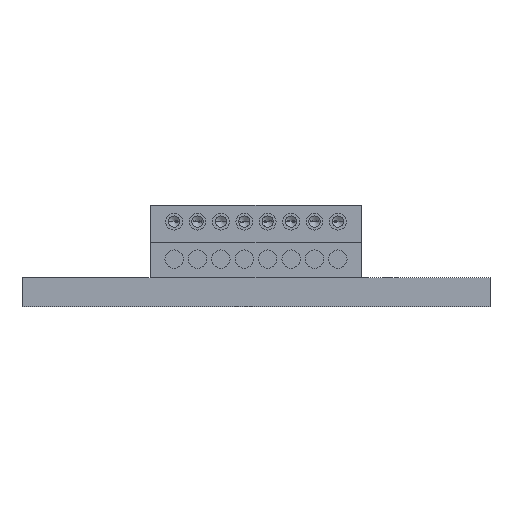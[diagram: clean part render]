
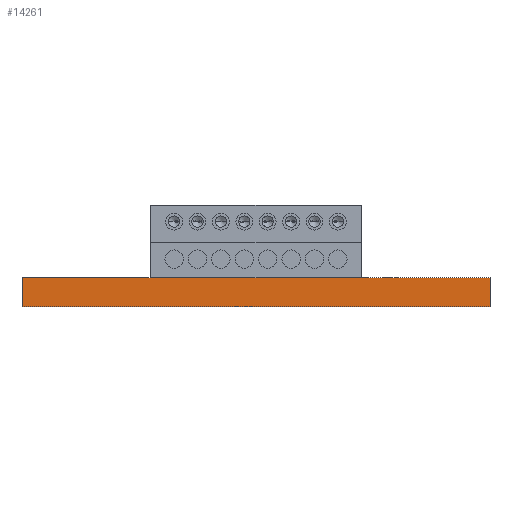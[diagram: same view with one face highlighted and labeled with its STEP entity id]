
A CAD part, front view. The second image highlights one B-rep face of the part: STEP entity #14261.
In plain terms, the highlighted planar face has unit normal (0, -1, 0).
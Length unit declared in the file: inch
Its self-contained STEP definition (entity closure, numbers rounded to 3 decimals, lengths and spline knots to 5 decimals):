
#496 = DIRECTION ( 'NONE',  ( 0., 0., -1. ) ) ;
#797 = VERTEX_POINT ( 'NONE', #3103 ) ;
#1990 = CARTESIAN_POINT ( 'NONE',  ( 0., 0., 0. ) ) ;
#2180 = EDGE_CURVE ( 'NONE', #797, #12998, #12395, .T. ) ;
#2408 = CARTESIAN_POINT ( 'NONE',  ( 0.5, 0., 0.031 ) ) ;
#3103 = CARTESIAN_POINT ( 'NONE',  ( 0., 0., 0.031 ) ) ;
#3537 = ORIENTED_EDGE ( 'NONE', *, *, #13372, .F. ) ;
#3547 = CARTESIAN_POINT ( 'NONE',  ( 0., 0., 0.031 ) ) ;
#3929 = DIRECTION ( 'NONE',  ( 0., 0., 1. ) ) ;
#4081 = LINE ( 'NONE', #11652, #7010 ) ;
#4999 = ORIENTED_EDGE ( 'NONE', *, *, #7317, .T. ) ;
#5192 = VERTEX_POINT ( 'NONE', #6979 ) ;
#5541 = CARTESIAN_POINT ( 'NONE',  ( 0.5, 0., 0.031 ) ) ;
#5646 = EDGE_LOOP ( 'NONE', ( #4999, #9469, #3537, #13345 ) ) ;
#6511 = AXIS2_PLACEMENT_3D ( 'NONE', #8515, #9438, #3929 ) ;
#6979 = CARTESIAN_POINT ( 'NONE',  ( 0.5, 0., 0. ) ) ;
#7010 = VECTOR ( 'NONE', #14054, 39.37008 ) ;
#7136 = LINE ( 'NONE', #2408, #13376 ) ;
#7317 = EDGE_CURVE ( 'NONE', #12998, #5192, #7830, .T. ) ;
#7830 = LINE ( 'NONE', #12202, #8031 ) ;
#8031 = VECTOR ( 'NONE', #8789, 39.37008 ) ;
#8515 = CARTESIAN_POINT ( 'NONE',  ( 0.5, 0., 0.031 ) ) ;
#8552 = VECTOR ( 'NONE', #496, 39.37008 ) ;
#8789 = DIRECTION ( 'NONE',  ( 1., 0., 0. ) ) ;
#9438 = DIRECTION ( 'NONE',  ( 0., 1., 0. ) ) ;
#9469 = ORIENTED_EDGE ( 'NONE', *, *, #10666, .F. ) ;
#9508 = PLANE ( 'NONE',  #6511 ) ;
#10666 = EDGE_CURVE ( 'NONE', #11671, #5192, #4081, .T. ) ;
#10797 = FACE_OUTER_BOUND ( 'NONE', #5646, .T. ) ;
#11652 = CARTESIAN_POINT ( 'NONE',  ( 0.5, 0., 0.031 ) ) ;
#11671 = VERTEX_POINT ( 'NONE', #5541 ) ;
#12202 = CARTESIAN_POINT ( 'NONE',  ( 0.5, 0., 0. ) ) ;
#12395 = LINE ( 'NONE', #3547, #8552 ) ;
#12511 = DIRECTION ( 'NONE',  ( 1., 0., 0. ) ) ;
#12998 = VERTEX_POINT ( 'NONE', #1990 ) ;
#13345 = ORIENTED_EDGE ( 'NONE', *, *, #2180, .T. ) ;
#13372 = EDGE_CURVE ( 'NONE', #797, #11671, #7136, .T. ) ;
#13376 = VECTOR ( 'NONE', #12511, 39.37008 ) ;
#14054 = DIRECTION ( 'NONE',  ( 0., 0., -1. ) ) ;
#14261 = ADVANCED_FACE ( 'NONE', ( #10797 ), #9508, .F. ) ;
